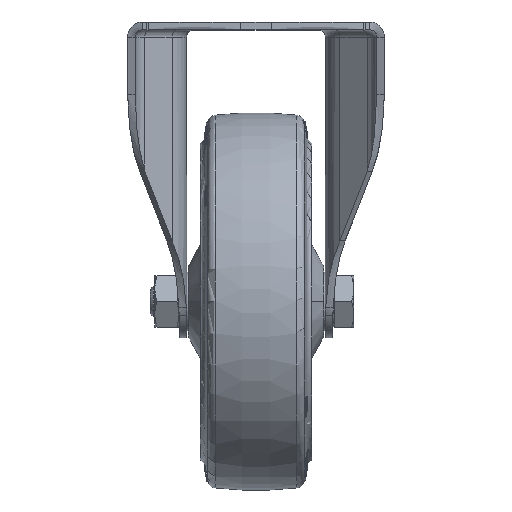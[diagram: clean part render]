
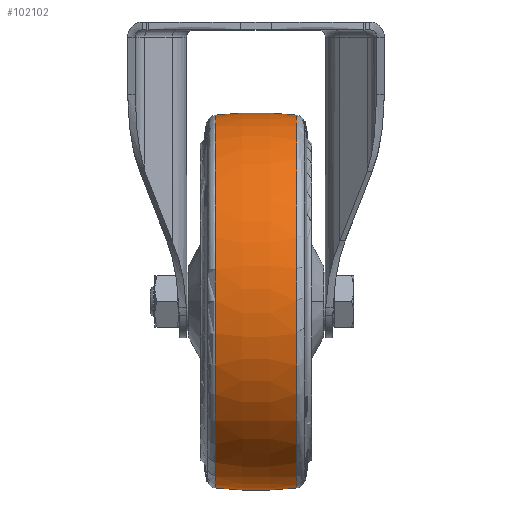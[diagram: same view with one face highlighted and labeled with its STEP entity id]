
A CAD part, top view. The second image highlights one B-rep face of the part: STEP entity #102102.
In plain terms, the highlighted toroidal (fillet/blend) face has major radius 57.5 mm and minor radius 120 mm.
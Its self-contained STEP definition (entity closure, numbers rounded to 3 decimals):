
#494 = AXIS2_PLACEMENT_3D ( 'NONE', #93482, #81495, #2460 ) ;
#2460 = DIRECTION ( 'NONE',  ( 0., 1., 0. ) ) ;
#2463 = CARTESIAN_POINT ( 'NONE',  ( 0., 0., 0. ) ) ;
#11369 = CARTESIAN_POINT ( 'NONE',  ( 0., 57.5, 0. ) ) ;
#13931 = CARTESIAN_POINT ( 'NONE',  ( 0., -57.5, 0. ) ) ;
#26212 = DIRECTION ( 'NONE',  ( 1., 0., 0. ) ) ;
#28906 = VERTEX_POINT ( 'NONE', #114842 ) ;
#37209 = DIRECTION ( 'NONE',  ( 0.112, 0.994, 0. ) ) ;
#38685 = ORIENTED_EDGE ( 'NONE', *, *, #64613, .T. ) ;
#39055 = ORIENTED_EDGE ( 'NONE', *, *, #126406, .T. ) ;
#44096 = DIRECTION ( 'NONE',  ( 0., 1., 0. ) ) ;
#44758 = ORIENTED_EDGE ( 'NONE', *, *, #123537, .F. ) ;
#44768 = AXIS2_PLACEMENT_3D ( 'NONE', #11369, #68028, #125027 ) ;
#49927 = AXIS2_PLACEMENT_3D ( 'NONE', #13931, #105090, #37209 ) ;
#52087 = VERTEX_POINT ( 'NONE', #139361 ) ;
#61868 = VERTEX_POINT ( 'NONE', #62325 ) ;
#62150 = FACE_OUTER_BOUND ( 'NONE', #95133, .T. ) ;
#62325 = CARTESIAN_POINT ( 'NONE',  ( -13.435, 61.746, 0. ) ) ;
#63414 = CIRCLE ( 'NONE', #44768, 120. ) ;
#64613 = EDGE_CURVE ( 'NONE', #28906, #107758, #144295, .T. ) ;
#68028 = DIRECTION ( 'NONE',  ( 0., 0., -1. ) ) ;
#78132 = TOROIDAL_SURFACE ( 'NONE', #88318, -57.5, 120. ) ;
#78417 = AXIS2_PLACEMENT_3D ( 'NONE', #134967, #100440, #44096 ) ;
#79628 = ORIENTED_EDGE ( 'NONE', *, *, #92419, .F. ) ;
#81495 = DIRECTION ( 'NONE',  ( -1., 0., 0. ) ) ;
#83441 = DIRECTION ( 'NONE',  ( 0., 1., 0. ) ) ;
#88318 = AXIS2_PLACEMENT_3D ( 'NONE', #2463, #26212, #83441 ) ;
#92419 = EDGE_CURVE ( 'NONE', #61868, #52087, #128154, .T. ) ;
#93482 = CARTESIAN_POINT ( 'NONE',  ( 13.435, 0., 0. ) ) ;
#95133 = EDGE_LOOP ( 'NONE', ( #38685, #39055, #79628, #44758 ) ) ;
#97041 = CIRCLE ( 'NONE', #49927, 120. ) ;
#100440 = DIRECTION ( 'NONE',  ( -1., 0., 0. ) ) ;
#102102 = ADVANCED_FACE ( 'NONE', ( #62150 ), #78132, .T. ) ;
#104786 = CARTESIAN_POINT ( 'NONE',  ( 13.435, -61.746, 0. ) ) ;
#105090 = DIRECTION ( 'NONE',  ( 0., 0., 1. ) ) ;
#107758 = VERTEX_POINT ( 'NONE', #104786 ) ;
#114842 = CARTESIAN_POINT ( 'NONE',  ( 13.435, 61.746, 0. ) ) ;
#123537 = EDGE_CURVE ( 'NONE', #28906, #61868, #97041, .T. ) ;
#125027 = DIRECTION ( 'NONE',  ( 0.112, -0.994, 0. ) ) ;
#126406 = EDGE_CURVE ( 'NONE', #107758, #52087, #63414, .T. ) ;
#128154 = CIRCLE ( 'NONE', #78417, 61.746 ) ;
#134967 = CARTESIAN_POINT ( 'NONE',  ( -13.435, 0., 0. ) ) ;
#139361 = CARTESIAN_POINT ( 'NONE',  ( -13.435, -61.746, 0. ) ) ;
#144295 = CIRCLE ( 'NONE', #494, 61.746 ) ;
